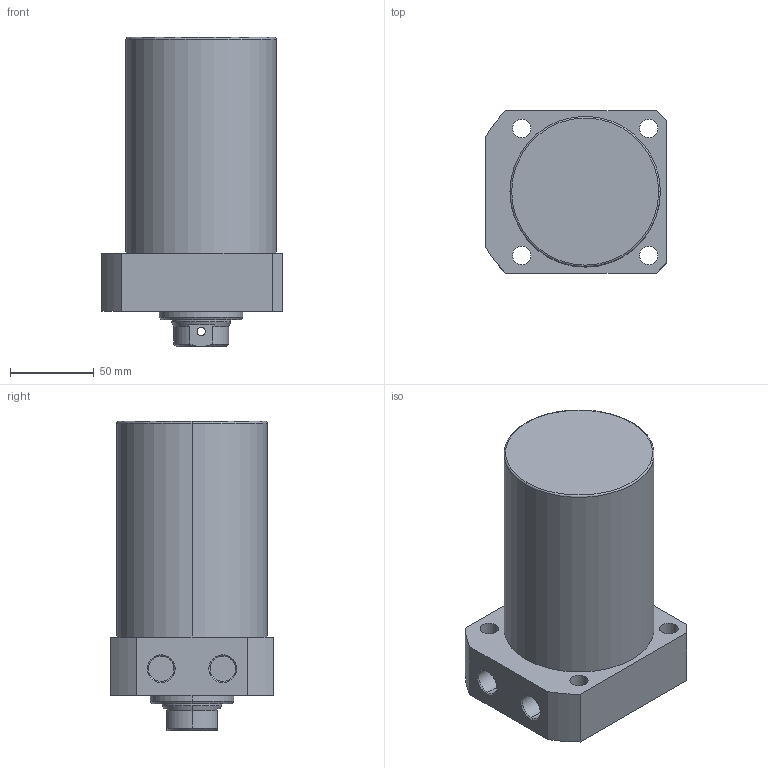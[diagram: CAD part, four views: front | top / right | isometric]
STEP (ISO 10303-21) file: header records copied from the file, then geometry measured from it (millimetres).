
FILE_DESCRIPTION (( 'STEP AP203' ), '1' );
FILE_NAME ('CLLR-090CB-085.STEP', '2019-12-18T06:12:35', ( '' ), ( '' ), 'SwSTEP 2.0', 'SolidWorks 2015', '' );
FILE_SCHEMA (( 'CONFIG_CONTROL_DESIGN' ));
Length unit declared in the file: millimetre
Products named in the file (1): CLLR-090CB-085
Bounding box: 108 x 97 x 185 mm (x, y, z)
Volume: 1169319 mm3; surface area: 81684.4 mm2
Topology: 1 solids, 1 shells, 69 faces, 163 edges, 102 vertices
Faces by surface type: cylinder 33, plane 19, cone 15, torus 2
Entity records: 2229 total; most frequent: CARTESIAN_POINT 497, DIRECTION 370, ORIENTED_EDGE 322, EDGE_CURVE 161, AXIS2_PLACEMENT_3D 151, VERTEX_POINT 102, EDGE_LOOP 89, CIRCLE 81
